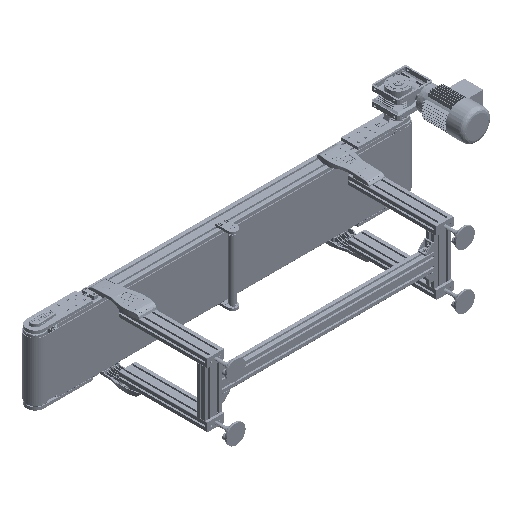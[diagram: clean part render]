
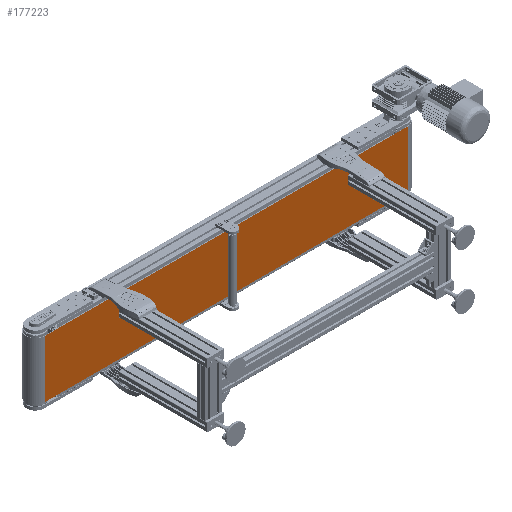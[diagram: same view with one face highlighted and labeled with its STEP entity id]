
A CAD part, isometric view. The second image highlights one B-rep face of the part: STEP entity #177223.
In plain terms, the highlighted planar face has unit normal (0, -1, 0).
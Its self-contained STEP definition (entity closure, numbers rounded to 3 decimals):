
#1915 = VECTOR ( 'NONE', #74963, 1000. ) ;
#2523 = DIRECTION ( 'NONE',  ( 1., 0., 0. ) ) ;
#4246 = CARTESIAN_POINT ( 'NONE',  ( 950., -49.5, 150. ) ) ;
#18743 = ORIENTED_EDGE ( 'NONE', *, *, #63528, .F. ) ;
#34760 = CARTESIAN_POINT ( 'NONE',  ( 950., -49.5, 150. ) ) ;
#37620 = CARTESIAN_POINT ( 'NONE',  ( -950., -49.5, 150. ) ) ;
#48787 = AXIS2_PLACEMENT_3D ( 'NONE', #120124, #213562, #118893 ) ;
#61644 = PLANE ( 'NONE',  #48787 ) ;
#63528 = EDGE_CURVE ( 'NONE', #242749, #71926, #87296, .T. ) ;
#67405 = DIRECTION ( 'NONE',  ( 1., 0., 0. ) ) ;
#71926 = VERTEX_POINT ( 'NONE', #4246 ) ;
#73176 = ORIENTED_EDGE ( 'NONE', *, *, #210988, .T. ) ;
#73663 = VECTOR ( 'NONE', #2523, 1000. ) ;
#74963 = DIRECTION ( 'NONE',  ( 0., 0., -1. ) ) ;
#80404 = VECTOR ( 'NONE', #67405, 1000. ) ;
#87296 = LINE ( 'NONE', #201876, #80404 ) ;
#91518 = VERTEX_POINT ( 'NONE', #141159 ) ;
#110706 = DIRECTION ( 'NONE',  ( 0., 0., -1. ) ) ;
#118893 = DIRECTION ( 'NONE',  ( 0., 0., 1. ) ) ;
#120124 = CARTESIAN_POINT ( 'NONE',  ( -950., -49.5, 150. ) ) ;
#121608 = EDGE_LOOP ( 'NONE', ( #73176, #242596, #18743, #237754 ) ) ;
#133383 = VERTEX_POINT ( 'NONE', #188883 ) ;
#134506 = CARTESIAN_POINT ( 'NONE',  ( -950., -49.5, -150. ) ) ;
#137566 = FACE_OUTER_BOUND ( 'NONE', #121608, .T. ) ;
#138574 = EDGE_CURVE ( 'NONE', #242749, #91518, #208223, .T. ) ;
#139087 = VECTOR ( 'NONE', #110706, 1000. ) ;
#141159 = CARTESIAN_POINT ( 'NONE',  ( -950., -49.5, -150. ) ) ;
#177223 = ADVANCED_FACE ( 'NONE', ( #137566 ), #61644, .F. ) ;
#188883 = CARTESIAN_POINT ( 'NONE',  ( 950., -49.5, -150. ) ) ;
#200735 = EDGE_CURVE ( 'NONE', #71926, #133383, #206610, .T. ) ;
#201876 = CARTESIAN_POINT ( 'NONE',  ( -950., -49.5, 150. ) ) ;
#206610 = LINE ( 'NONE', #34760, #139087 ) ;
#208223 = LINE ( 'NONE', #37620, #1915 ) ;
#210988 = EDGE_CURVE ( 'NONE', #91518, #133383, #212964, .T. ) ;
#211392 = CARTESIAN_POINT ( 'NONE',  ( -950., -49.5, 150. ) ) ;
#212964 = LINE ( 'NONE', #134506, #73663 ) ;
#213562 = DIRECTION ( 'NONE',  ( 0., 1., 0. ) ) ;
#237754 = ORIENTED_EDGE ( 'NONE', *, *, #138574, .T. ) ;
#242596 = ORIENTED_EDGE ( 'NONE', *, *, #200735, .F. ) ;
#242749 = VERTEX_POINT ( 'NONE', #211392 ) ;
